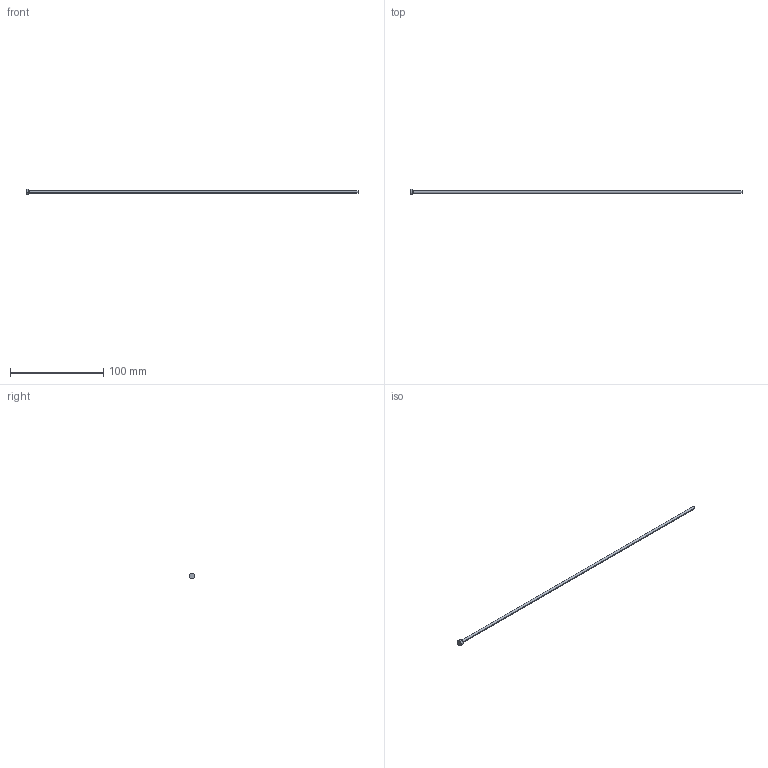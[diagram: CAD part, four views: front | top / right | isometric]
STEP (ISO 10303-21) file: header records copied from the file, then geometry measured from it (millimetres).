
FILE_DESCRIPTION (( 'STEP AP214' ), '1' );
FILE_NAME ('P9-14.STEP', '2020-03-11T17:31:53', ( '' ), ( '' ), 'SwSTEP 2.0', 'SolidWorks 2018', '' );
FILE_SCHEMA (( 'AUTOMOTIVE_DESIGN' ));
Length unit declared in the file: inch
Products named in the file (1): P9-14
Bounding box: 355.6 x 6.35 x 6.35 mm (x, y, z)
Volume: 2878.6 mm3; surface area: 3628.1 mm2
Topology: 1 solids, 1 shells, 13 faces, 24 edges, 14 vertices
Faces by surface type: cone 4, cylinder 4, plane 3, torus 2
Entity records: 366 total; most frequent: DIRECTION 68, CARTESIAN_POINT 52, ORIENTED_EDGE 48, AXIS2_PLACEMENT_3D 30, EDGE_CURVE 24, CIRCLE 16, VERTEX_POINT 14, EDGE_LOOP 14
